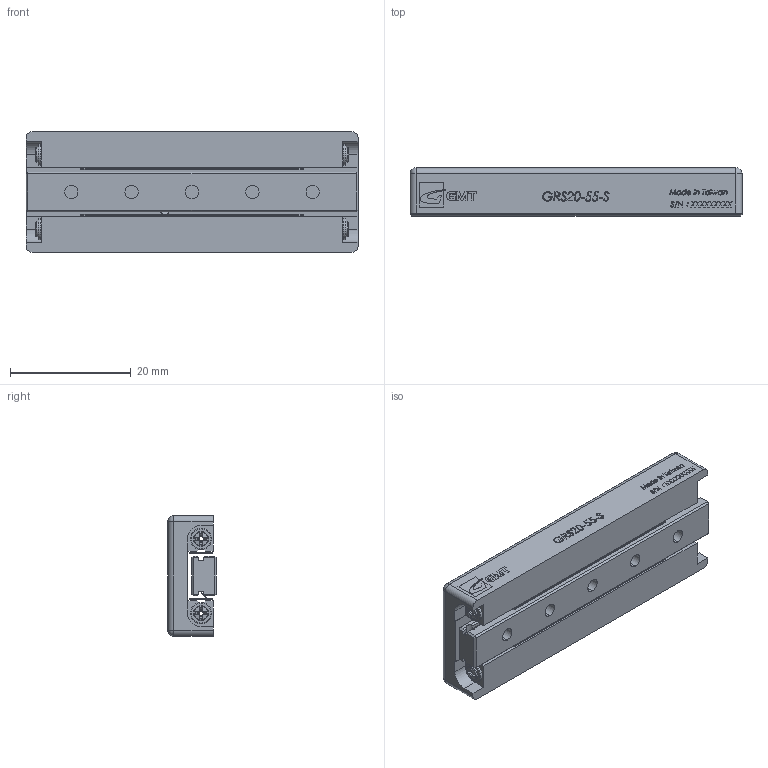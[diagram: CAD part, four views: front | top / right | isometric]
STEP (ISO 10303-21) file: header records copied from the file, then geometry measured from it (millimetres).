
FILE_DESCRIPTION (( 'STEP AP203' ), '1' );
FILE_NAME ('GRS20-55-S.STEP', '2013-12-20T08:45:38', ( '' ), ( '' ), 'SwSTEP 2.0', 'SolidWorks 2013', '' );
FILE_SCHEMA (( 'CONFIG_CONTROL_DESIGN' ));
Length unit declared in the file: millimetre
Products named in the file (1): GRS20-55-S
Bounding box: 55 x 8 x 20 mm (x, y, z)
Surface area: 5426.2 mm2 (no closed solid volume)
Topology: 0 solids, 19 shells, 435 faces, 2188 edges, 1704 vertices
Faces by surface type: plane 276, cylinder 64, bspline 43, torus 24, cone 16, sphere 12
Entity records: 26975 total; most frequent: CARTESIAN_POINT 10663, ORIENTED_EDGE 3068, DIRECTION 2944, EDGE_CURVE 2184, VERTEX_POINT 1704, VECTOR 1422, LINE 1422, AXIS2_PLACEMENT_3D 761
